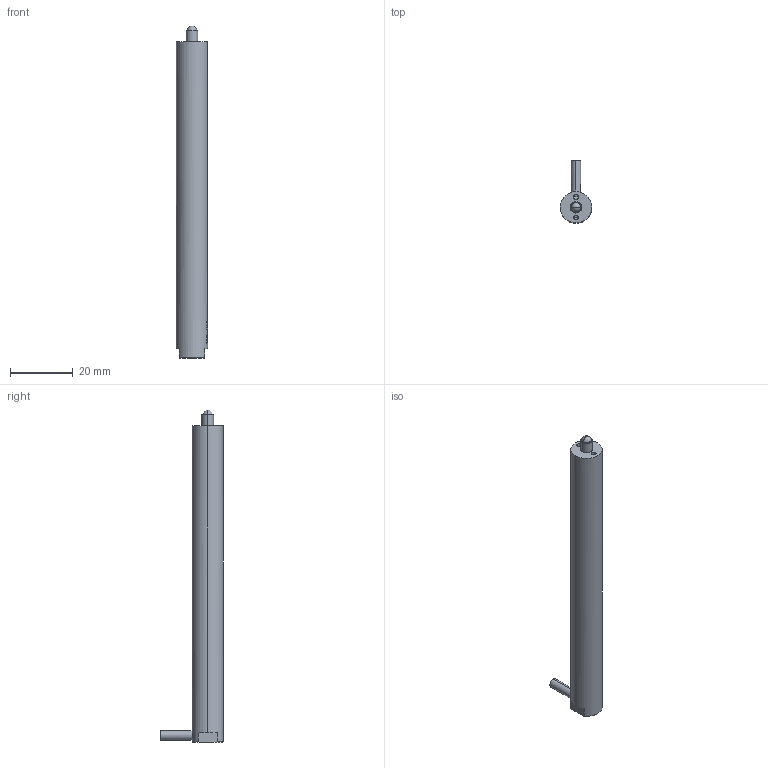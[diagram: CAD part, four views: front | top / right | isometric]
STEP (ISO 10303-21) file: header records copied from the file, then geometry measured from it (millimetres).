
FILE_DESCRIPTION (( 'STEP AP203' ), '1' );
FILE_NAME ('100VS10球头.STEP', '2024-12-10T06:34:23', ( 'daohangxitong.com' ), ( 'daohangxitong.com' ), 'SwSTEP 2.0', 'SolidWorks 2016', '' );
FILE_SCHEMA (( 'CONFIG_CONTROL_DESIGN' ));
Length unit declared in the file: millimetre
Products named in the file (1): 100VS10球头
Bounding box: 10 x 20 x 105.6 mm (x, y, z)
Volume: 7960.8 mm3; surface area: 3523.2 mm2
Topology: 1 solids, 1 shells, 735 faces, 2092 edges, 1387 vertices
Faces by surface type: bspline 635, cylinder 49, plane 37, cone 12, sphere 2
Entity records: 41492 total; most frequent: CARTESIAN_POINT 28014, ORIENTED_EDGE 4172, EDGE_CURVE 2086, B_SPLINE_CURVE_WITH_KNOTS 1951, VERTEX_POINT 1387, EDGE_LOOP 769, FACE_OUTER_BOUND 735, ADVANCED_FACE 735
